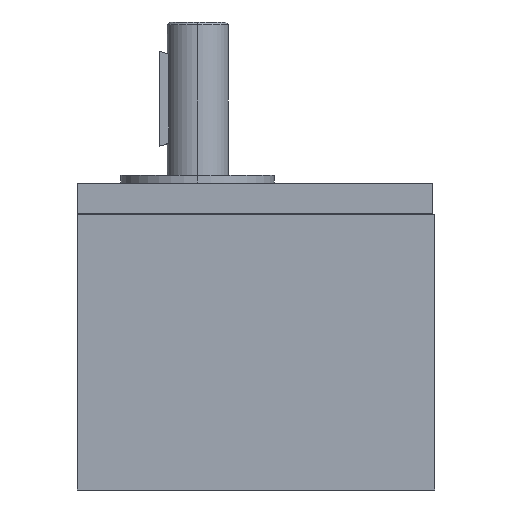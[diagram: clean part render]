
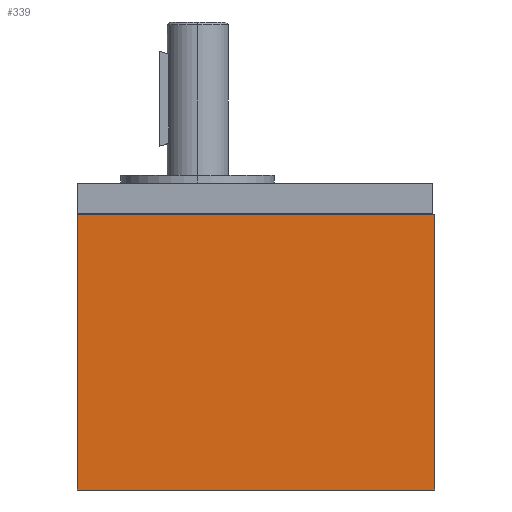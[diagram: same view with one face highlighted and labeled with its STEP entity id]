
A CAD part, left-side view. The second image highlights one B-rep face of the part: STEP entity #339.
In plain terms, the highlighted planar face has unit normal (-1, 0, 0).
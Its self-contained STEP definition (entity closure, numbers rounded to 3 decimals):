
#6 = VERTEX_POINT ( 'NONE', #1254 ) ;
#12 = VERTEX_POINT ( 'NONE', #1299 ) ;
#13 = EDGE_CURVE ( 'NONE', #6, #12, #1252, .T. ) ;
#62 = EDGE_CURVE ( 'NONE', #75, #302, #1367, .T. ) ;
#75 = VERTEX_POINT ( 'NONE', #1405 ) ;
#262 = ORIENTED_EDGE ( 'NONE', *, *, #13, .T. ) ;
#265 = ORIENTED_EDGE ( 'NONE', *, *, #62, .T. ) ;
#266 = EDGE_LOOP ( 'NONE', ( #262, #338, #265, #271 ) ) ;
#267 = EDGE_CURVE ( 'NONE', #302, #6, #1789, .T. ) ;
#271 = ORIENTED_EDGE ( 'NONE', *, *, #267, .T. ) ;
#291 = EDGE_CURVE ( 'NONE', #12, #75, #1791, .T. ) ;
#302 = VERTEX_POINT ( 'NONE', #1790 ) ;
#338 = ORIENTED_EDGE ( 'NONE', *, *, #291, .T. ) ;
#339 = ADVANCED_FACE ( 'NONE', ( #1869 ), #1871, .F. ) ;
#1252 = LINE ( 'NONE', #1294, #1293 ) ;
#1254 = CARTESIAN_POINT ( 'NONE',  ( -35., -34.8, 53.9 ) ) ;
#1292 = DIRECTION ( 'NONE',  ( 0., 1., 0. ) ) ;
#1293 = VECTOR ( 'NONE', #1292, 1000. ) ;
#1294 = CARTESIAN_POINT ( 'NONE',  ( -35., 35., 53.9 ) ) ;
#1299 = CARTESIAN_POINT ( 'NONE',  ( -35., 35., 53.9 ) ) ;
#1350 = DIRECTION ( 'NONE',  ( 0., -1., 0. ) ) ;
#1351 = VECTOR ( 'NONE', #1350, 1000. ) ;
#1366 = CARTESIAN_POINT ( 'NONE',  ( -35., -35., 0. ) ) ;
#1367 = LINE ( 'NONE', #1366, #1351 ) ;
#1405 = CARTESIAN_POINT ( 'NONE',  ( -35., 35., 0. ) ) ;
#1770 = DIRECTION ( 'NONE',  ( 0., 0., 1. ) ) ;
#1771 = VECTOR ( 'NONE', #1770, 1000. ) ;
#1788 = CARTESIAN_POINT ( 'NONE',  ( -35., -34.8, 0. ) ) ;
#1789 = LINE ( 'NONE', #1788, #1771 ) ;
#1790 = CARTESIAN_POINT ( 'NONE',  ( -35., -34.8, 0. ) ) ;
#1791 = LINE ( 'NONE', #1849, #1848 ) ;
#1847 = DIRECTION ( 'NONE',  ( 0., 0., -1. ) ) ;
#1848 = VECTOR ( 'NONE', #1847, 1000. ) ;
#1849 = CARTESIAN_POINT ( 'NONE',  ( -35., 35., 60. ) ) ;
#1861 = DIRECTION ( 'NONE',  ( 0., 0., -1. ) ) ;
#1862 = DIRECTION ( 'NONE',  ( 1., 0., 0. ) ) ;
#1863 = CARTESIAN_POINT ( 'NONE',  ( -35., -35., 60. ) ) ;
#1869 = FACE_OUTER_BOUND ( 'NONE', #266, .T. ) ;
#1870 = AXIS2_PLACEMENT_3D ( 'NONE', #1863, #1862, #1861 ) ;
#1871 = PLANE ( 'NONE',  #1870 ) ;
